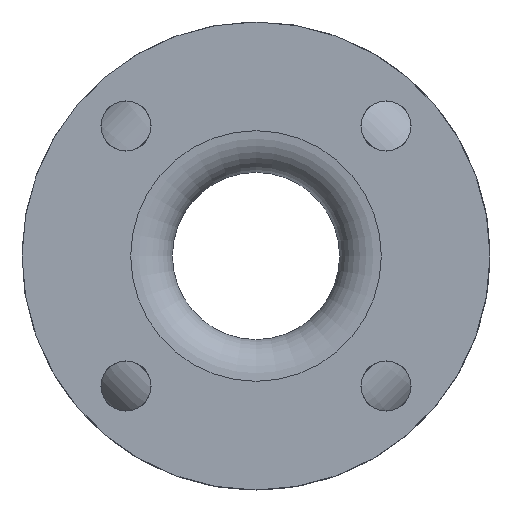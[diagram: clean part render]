
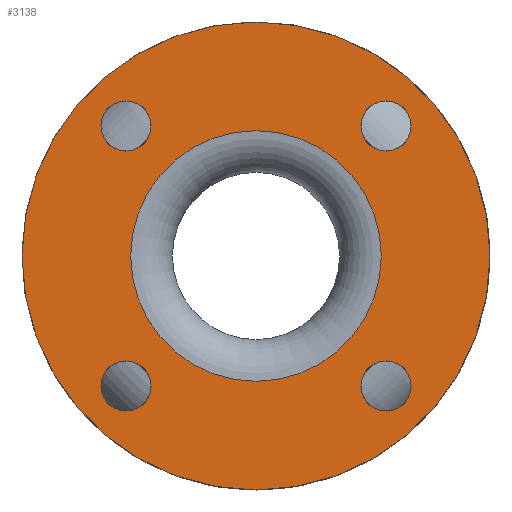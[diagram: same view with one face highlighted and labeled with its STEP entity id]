
A CAD part, left-side view. The second image highlights one B-rep face of the part: STEP entity #3138.
In plain terms, the highlighted planar face has unit normal (-1, 0, 0).
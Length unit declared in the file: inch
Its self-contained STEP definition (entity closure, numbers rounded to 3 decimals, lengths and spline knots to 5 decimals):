
#85=FACE_BOUND('',#561,.T.);
#86=FACE_BOUND('',#562,.T.);
#87=FACE_BOUND('',#563,.T.);
#88=FACE_BOUND('',#564,.T.);
#89=FACE_BOUND('',#565,.T.);
#337=FACE_OUTER_BOUND('',#560,.T.);
#560=EDGE_LOOP('',(#2390));
#561=EDGE_LOOP('',(#2391));
#562=EDGE_LOOP('',(#2392));
#563=EDGE_LOOP('',(#2393));
#564=EDGE_LOOP('',(#2394));
#565=EDGE_LOOP('',(#2395));
#1131=CIRCLE('',#3399,0.375);
#1133=CIRCLE('',#3402,0.375);
#1135=CIRCLE('',#3405,0.375);
#1137=CIRCLE('',#3408,0.375);
#1161=CIRCLE('',#3451,1.875);
#1162=CIRCLE('',#3453,3.5);
#1405=VERTEX_POINT('',#5059);
#1407=VERTEX_POINT('',#5064);
#1409=VERTEX_POINT('',#5069);
#1411=VERTEX_POINT('',#5074);
#1435=VERTEX_POINT('',#5141);
#1436=VERTEX_POINT('',#5144);
#1759=EDGE_CURVE('',#1405,#1405,#1131,.T.);
#1761=EDGE_CURVE('',#1407,#1407,#1133,.T.);
#1763=EDGE_CURVE('',#1409,#1409,#1135,.T.);
#1765=EDGE_CURVE('',#1411,#1411,#1137,.T.);
#1789=EDGE_CURVE('',#1435,#1435,#1161,.T.);
#1790=EDGE_CURVE('',#1436,#1436,#1162,.T.);
#2390=ORIENTED_EDGE('',*,*,#1790,.F.);
#2391=ORIENTED_EDGE('',*,*,#1789,.T.);
#2392=ORIENTED_EDGE('',*,*,#1759,.T.);
#2393=ORIENTED_EDGE('',*,*,#1761,.T.);
#2394=ORIENTED_EDGE('',*,*,#1763,.T.);
#2395=ORIENTED_EDGE('',*,*,#1765,.T.);
#2836=PLANE('',#3452);
#3138=ADVANCED_FACE('',(#337,#85,#86,#87,#88,#89),#2836,.T.);
#3399=AXIS2_PLACEMENT_3D('',#5060,#4077,#4078);
#3402=AXIS2_PLACEMENT_3D('',#5065,#4083,#4084);
#3405=AXIS2_PLACEMENT_3D('',#5070,#4089,#4090);
#3408=AXIS2_PLACEMENT_3D('',#5075,#4095,#4096);
#3451=AXIS2_PLACEMENT_3D('',#5142,#4181,#4182);
#3452=AXIS2_PLACEMENT_3D('',#5143,#4183,#4184);
#3453=AXIS2_PLACEMENT_3D('',#5145,#4185,#4186);
#4077=DIRECTION('center_axis',(1.,0.,0.));
#4078=DIRECTION('ref_axis',(0.,0.,
1.));
#4083=DIRECTION('center_axis',(1.,0.,0.));
#4084=DIRECTION('ref_axis',(0.,1.,0.));
#4089=DIRECTION('center_axis',(1.,0.,0.));
#4090=DIRECTION('ref_axis',(0.,0.,
-1.));
#4095=DIRECTION('center_axis',(1.,0.,0.));
#4096=DIRECTION('ref_axis',(0.,-1.,0.));
#4181=DIRECTION('center_axis',(1.,0.,0.));
#4182=DIRECTION('ref_axis',(0.,0.,-1.));
#4183=DIRECTION('center_axis',(-1.,0.,0.));
#4184=DIRECTION('ref_axis',(0.,0.,1.));
#4185=DIRECTION('center_axis',(1.,0.,0.));
#4186=DIRECTION('ref_axis',(0.,0.,-1.));
#5059=CARTESIAN_POINT('',(-7.,-1.94454,-2.31954));
#5060=CARTESIAN_POINT('Origin',(-7.,-1.94454,-1.94454));
#5064=CARTESIAN_POINT('',(-7.,-2.31954,1.94454));
#5065=CARTESIAN_POINT('Origin',(-7.,-1.94454,1.94454));
#5069=CARTESIAN_POINT('',(-7.,1.94454,2.31954));
#5070=CARTESIAN_POINT('Origin',(-7.,1.94454,1.94454));
#5074=CARTESIAN_POINT('',(-7.,2.31954,-1.94454));
#5075=CARTESIAN_POINT('Origin',(-7.,1.94454,-1.94454));
#5141=CARTESIAN_POINT('',(-7.,1.875,0.));
#5142=CARTESIAN_POINT('Origin',(-7.,0.,0.));
#5143=CARTESIAN_POINT('Origin',(-7.,3.5,0.));
#5144=CARTESIAN_POINT('',(-7.,3.5,0.));
#5145=CARTESIAN_POINT('Origin',(-7.,0.,0.));
